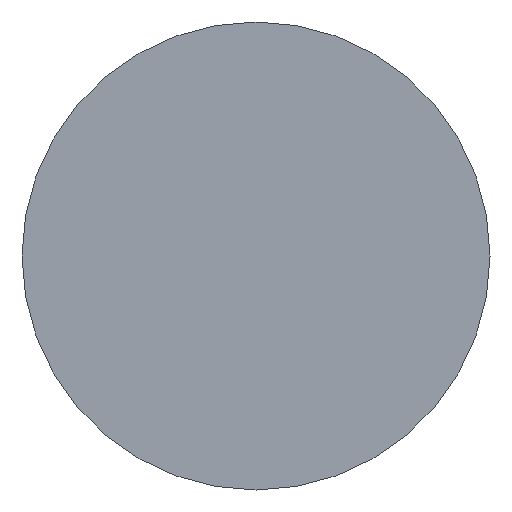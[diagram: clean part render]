
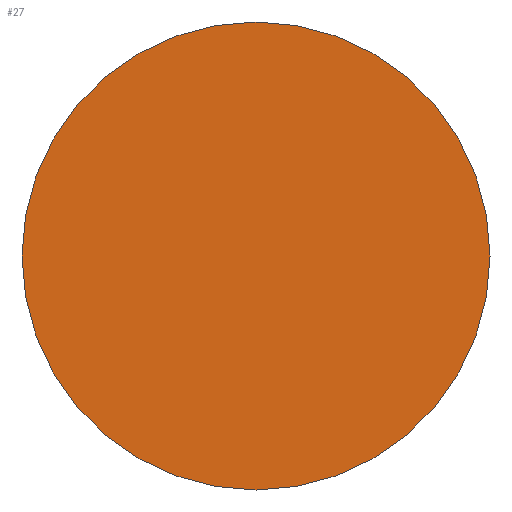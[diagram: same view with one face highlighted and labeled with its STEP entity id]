
A CAD part, left-side view. The second image highlights one B-rep face of the part: STEP entity #27.
In plain terms, the highlighted planar face has unit normal (-1, 0, 0).
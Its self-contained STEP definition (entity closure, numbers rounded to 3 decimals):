
#2=CARTESIAN_POINT('',(-421.185,-438.109,29.503));
#3=DIRECTION('',(1.0,0.0,0.0));
#4=DIRECTION('',(0.0,-1.0,0.0));
#5=AXIS2_PLACEMENT_3D('',#2,#3,#4);
#6=PLANE('',#5);
#7=CARTESIAN_POINT('',(-421.185,-488.109,-45.497));
#8=VERTEX_POINT('',#7);
#9=CARTESIAN_POINT('',(-421.185,-488.109,4.503));
#10=VERTEX_POINT('',#9);
#11=CARTESIAN_POINT('',(-421.185,-488.109,-20.497));
#12=DIRECTION('',(1.0,0.0,0.0));
#13=DIRECTION('',(0.0,0.0,1.0));
#14=AXIS2_PLACEMENT_3D('',#11,#12,#13);
#15=CIRCLE('',#14,25.);
#16=EDGE_CURVE('',#8,#10,#15,.T.);
#17=ORIENTED_EDGE('',*,*,#16,.F.);
#18=CARTESIAN_POINT('',(-421.185,-488.109,-20.497));
#19=DIRECTION('',(1.0,0.0,0.0));
#20=DIRECTION('',(0.0,0.0,1.0));
#21=AXIS2_PLACEMENT_3D('',#18,#19,#20);
#22=CIRCLE('',#21,25.);
#23=EDGE_CURVE('',#10,#8,#22,.T.);
#24=ORIENTED_EDGE('',*,*,#23,.F.);
#25=EDGE_LOOP('',(#17,#24));
#26=FACE_OUTER_BOUND('',#25,.T.);
#27=ADVANCED_FACE('',(#26),#6,.F.);
